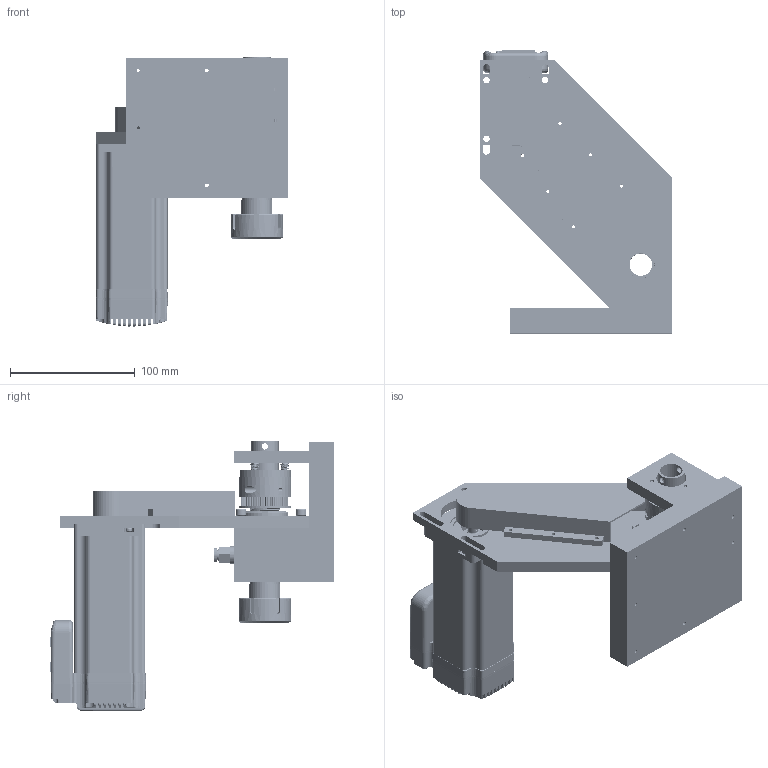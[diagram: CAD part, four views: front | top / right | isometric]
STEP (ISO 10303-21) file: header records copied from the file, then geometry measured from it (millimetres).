
FILE_DESCRIPTION(/* description */ (''),/* implementation_level */ '2;1');
FILE_NAME(/* name */ 'C:/Users/mikeb/Downloads/3rd_axis_assy_v2 v2.step',/* time_stamp */ '2022-07-16T14:48:32+02:00',/* author */ (''),/* organization */ (''),/* preprocessor_version */ 'ST-DEVELOPER v19',/* originating_system */ 'Autodesk Translation Framework v11.7.0.108',/* authorisation */ '');
FILE_SCHEMA (('AUTOMOTIVE_DESIGN { 1 0 10303 214 3 1 1 }'));
Products named in the file (40): 3rd_axis_assy_v2; 6905_bearing; 6905_bearingblock; 6905_bearing_1; 5972K246_Ball Bearing; RE25 Chuck; SKF_KM 5; ER25_collet_nut; 6163N114_COLLET CHUCK; GT2_60T_custom_pulley; 3764N118_HIGH-STRENGTH GT TIMING BELT PULLEY; clamping_ring; iHSV57-30-18-36-21-38; 57Ò»Ìå»¯É¢ÈÈÆ
÷; 2 (1); ËÅ·þºó¸Ç; 2; »úÉí; 57ËÜ½ºÄ£; 57-P PCB; Ò»Ìå»¯ËÅ·þÉ
Ï¸Ç; 2way 3; LED-D3R; Ò»Ìå»¯Ãæ°å1; Ò»Ìå»¯°ÎÂë; ÂÝË¿Í·; LED-D3G; mounting_plate_2; baseplate; rotating contact; fixed_world_contact; contactpushblock; pin_3x20; 90037A121_High-Strength 316 Stainless Steel Socket Head Screw; 94125K203_Compression Springs; motor_isolator; splashguard; splashguard_fix; base; Conek6mmpushin v1
Assembly tree (65 placements, depth 4):
  3rd_axis_assy_v2
    6905_bearing
      5972K246_Ball Bearing
    6905_bearingblock
    6905_bearing_1
      5972K246_Ball Bearing
    RE25 Chuck
    SKF_KM 5  x2
    ER25_collet_nut
      6163N114_COLLET CHUCK
    GT2_60T_custom_pulley
      3764N118_HIGH-STRENGTH GT TIMING BELT PULLEY
    clamping_ring
    iHSV57-30-18-36-21-38
      57Ò»Ìå»¯É¢ÈÈÆ
÷
      2 (1)
      ËÅ·þºó¸Ç
      ÂÝË¿Í·  x4
      2
      »úÉí
      57ËÜ½ºÄ£
      57-P PCB
      Ò»Ìå»¯ËÅ·þÉ
Ï¸Ç
      2way 3
      LED-D3R
      Ò»Ìå»¯Ãæ°å1
      Ò»Ìå»¯°ÎÂë
        #147955
        #147956
        #147957
        #147958
        #147959
        #147960
        #147961
        #147962
        #147963
        #147964
        #147965
        #147966
      LED-D3G
    mounting_plate_2
    baseplate
    90037A121_High-Strength 316 Stainless Steel Socket Head Screw  x5
    rotating contact
    fixed_world_contact
    contactpushblock
    pin_3x20  x3
    94125K203_Compression Springs  x3
    motor_isolator
    splashguard
    splashguard_fix  x2
    base
    Conek6mmpushin v1
Bounding box: 153.8 x 226.65 x 215.47 mm (x, y, z)
Volume: 1063237.6 mm3; surface area: 353260.1 mm2
Topology: 91 solids, 95 shells, 3979 faces, 10347 edges, 6726 vertices
Faces by surface type: plane 2105, cylinder 1433, bspline 221, cone 122, sphere 56, torus 42
Full cylindrical faces by diameter (mm): 0.457 x3, 0.7 x3, 1 x13, 1.2 x15, 1.25 x2, 1.6 x14, 2.146 x2, 2.2 x2, 2.5 x19, 3 x31, 3.1 x1, 3.2 x2, 3.3 x8, 3.961 x120, 4 x7, 4.2 x8, 5 x135, 5.2 x8, 5.5 x4, 6 x8, 6.3 x1, 7 x3, 7.6 x1, 8 x4, 8.5 x5, 9 x1, 9.35 x1, 9.5 x1, 9.7 x1, 10 x5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
Entity records: 148032 total; most frequent: CARTESIAN_POINT 58108, ORIENTED_EDGE 18238, DIRECTION 17761, EDGE_CURVE 9126, VERTEX_POINT 5954, AXIS2_PLACEMENT_3D 5946, LINE 5869, VECTOR 5869
